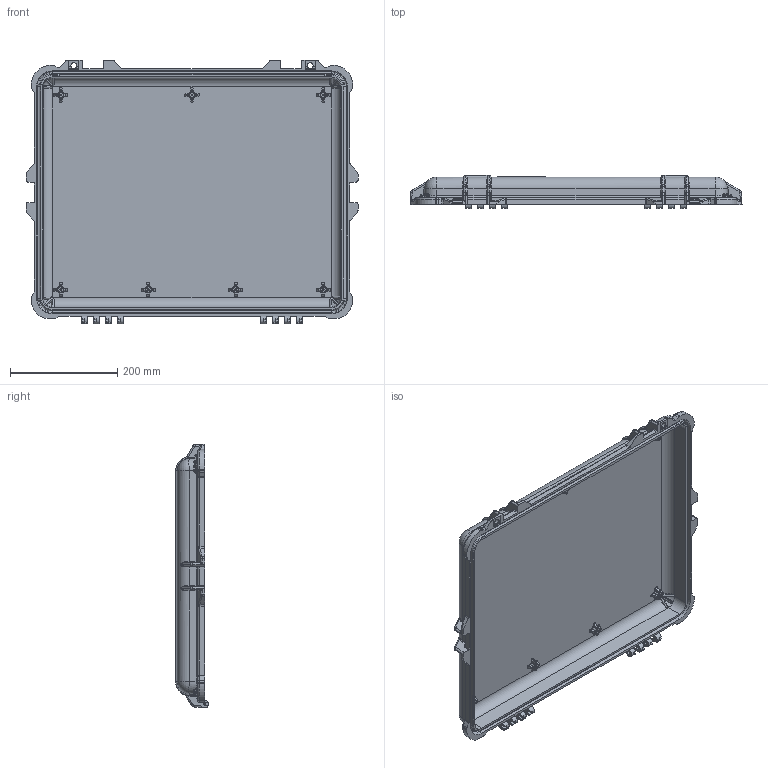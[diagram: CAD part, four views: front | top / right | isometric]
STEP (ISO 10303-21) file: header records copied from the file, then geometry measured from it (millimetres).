
FILE_DESCRIPTION (( 'STEP AP214' ), '1' );
FILE_NAME ('1600E – 931 TOP PID 2-21-2025.STEP', '2025-02-25T20:11:56', ( '' ), ( '' ), 'SwSTEP 2.0', 'SolidWorks 2021', '' );
FILE_SCHEMA (( 'AUTOMOTIVE_DESIGN' ));
Length unit declared in the file: inch
Products named in the file (1): 1600E – 931 TOP PID 2-21-2025
Bounding box: 618.58 x 61.09 x 491.36 mm (x, y, z)
Volume: 2026679.2 mm3; surface area: 762129.6 mm2
Topology: 1 solids, 1 shells, 2018 faces, 4959 edges, 2855 vertices
Faces by surface type: cylinder 595, bspline 570, plane 406, torus 276, cone 91, sphere 80
Entity records: 77772 total; most frequent: CARTESIAN_POINT 35110, ORIENTED_EDGE 9742, DIRECTION 8199, EDGE_CURVE 4871, AXIS2_PLACEMENT_3D 3308, VERTEX_POINT 2855, EDGE_LOOP 2054, ADVANCED_FACE 2018
